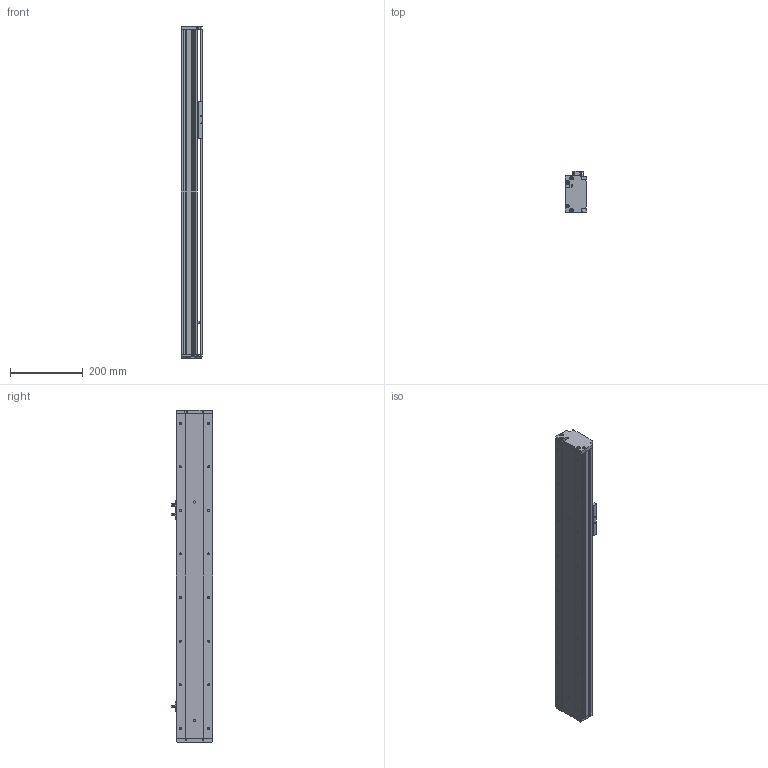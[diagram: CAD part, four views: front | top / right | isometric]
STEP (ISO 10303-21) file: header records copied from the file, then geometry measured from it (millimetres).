
FILE_DESCRIPTION (( 'STEP AP214' ), '1' );
FILE_NAME ('KSD100S-S550-M-CM.STEP', '2019-08-29T08:45:15', ( '微软用户' ), ( '微软中国' ), 'SwSTEP 2.0', 'SolidWorks 2014', '' );
FILE_SCHEMA (( 'AUTOMOTIVE_DESIGN' ));
Length unit declared in the file: millimetre
Products named in the file (7): U倰嫖萇EEㄜSX672; 100宽防尘板丝杆550行程电机内装; 100宽马达安装板-电机内装; 100宽滚珠螺姆安装板半封闭; 100遵傷啣; 100宽底板半封闭丝杆550行程电机内装; KSD100S-S550-M-CM
Assembly tree (8 placements, depth 2):
  KSD100S-S550-M-CM
    100宽底板半封闭丝杆550行程电机内装
    100遵傷啣
    100宽滚珠螺姆安装板半封闭
    100宽马达安装板-电机内装
    100宽防尘板丝杆550行程电机内装
    U倰嫖萇EEㄜSX672  x3
Bounding box: 60 x 113.7 x 913 mm (x, y, z)
Volume: 1780159.9 mm3; surface area: 644933.9 mm2
Topology: 8 solids, 8 shells, 1033 faces, 2946 edges, 1857 vertices
Faces by surface type: cylinder 482, plane 430, cone 121
Entity records: 35780 total; most frequent: CARTESIAN_POINT 7343, DIRECTION 4633, ORIENTED_EDGE 4552, EDGE_CURVE 2276, AXIS2_PLACEMENT_3D 1663, VERTEX_POINT 1481, LINE 1307, VECTOR 1307
